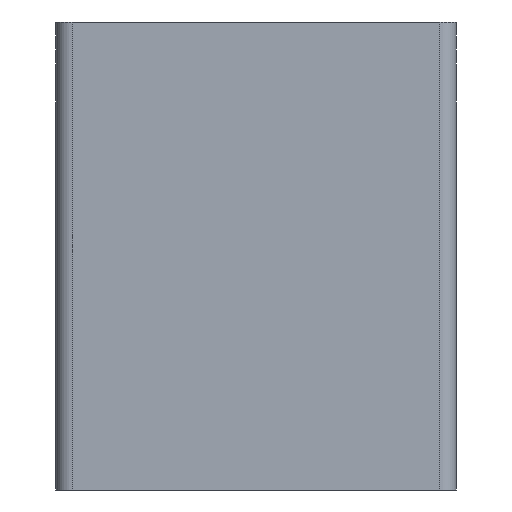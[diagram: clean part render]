
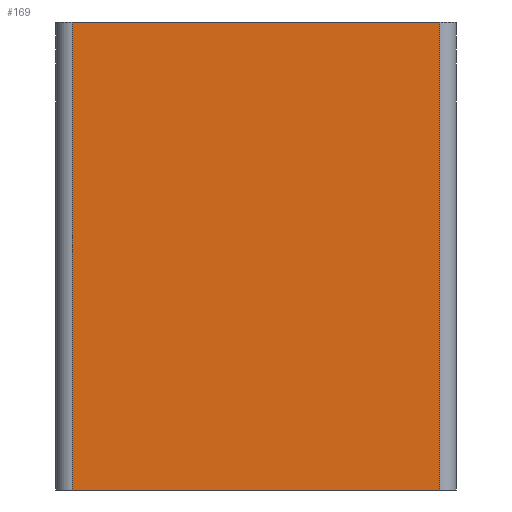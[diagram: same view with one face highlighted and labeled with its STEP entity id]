
A CAD part, left-side view. The second image highlights one B-rep face of the part: STEP entity #169.
In plain terms, the highlighted planar face has unit normal (-1, 0, 0).
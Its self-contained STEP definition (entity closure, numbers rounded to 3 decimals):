
#1 = VECTOR ( 'NONE', #268, 1000. ) ;
#19 = CARTESIAN_POINT ( 'NONE',  ( -9.5, 7.5, 0. ) ) ;
#47 = LINE ( 'NONE', #329, #1 ) ;
#85 = LINE ( 'NONE', #19, #238 ) ;
#104 = CARTESIAN_POINT ( 'NONE',  ( -9.5, -4.4, 14.5 ) ) ;
#108 = EDGE_CURVE ( 'NONE', #575, #505, #220, .T. ) ;
#144 = DIRECTION ( 'NONE',  ( 0., 0., -1. ) ) ;
#162 = DIRECTION ( 'NONE',  ( 1., 0., 0. ) ) ;
#169 = ADVANCED_FACE ( 'NONE', ( #685 ), #588, .F. ) ;
#205 = ORIENTED_EDGE ( 'NONE', *, *, #421, .F. ) ;
#210 = VECTOR ( 'NONE', #234, 1000. ) ;
#212 = DIRECTION ( 'NONE',  ( 0., 0., -1. ) ) ;
#220 = LINE ( 'NONE', #527, #735 ) ;
#234 = DIRECTION ( 'NONE',  ( 0., -1., 0. ) ) ;
#238 = VECTOR ( 'NONE', #144, 1000. ) ;
#256 = EDGE_CURVE ( 'NONE', #736, #575, #634, .T. ) ;
#268 = DIRECTION ( 'NONE',  ( 0., -1., 0. ) ) ;
#311 = VERTEX_POINT ( 'NONE', #386 ) ;
#329 = CARTESIAN_POINT ( 'NONE',  ( -9.5, -4.4, 14.5 ) ) ;
#386 = CARTESIAN_POINT ( 'NONE',  ( -9.5, 7.5, 14.5 ) ) ;
#395 = AXIS2_PLACEMENT_3D ( 'NONE', #104, #162, #212 ) ;
#417 = ORIENTED_EDGE ( 'NONE', *, *, #256, .T. ) ;
#421 = EDGE_CURVE ( 'NONE', #311, #505, #47, .T. ) ;
#449 = EDGE_LOOP ( 'NONE', ( #205, #637, #417, #541 ) ) ;
#461 = DIRECTION ( 'NONE',  ( 0., 0., 1. ) ) ;
#496 = CARTESIAN_POINT ( 'NONE',  ( -9.5, -3.9, 14.5 ) ) ;
#505 = VERTEX_POINT ( 'NONE', #496 ) ;
#527 = CARTESIAN_POINT ( 'NONE',  ( -9.5, -3.9, 14.5 ) ) ;
#541 = ORIENTED_EDGE ( 'NONE', *, *, #108, .T. ) ;
#575 = VERTEX_POINT ( 'NONE', #768 ) ;
#588 = PLANE ( 'NONE',  #395 ) ;
#634 = LINE ( 'NONE', #770, #210 ) ;
#637 = ORIENTED_EDGE ( 'NONE', *, *, #709, .T. ) ;
#679 = CARTESIAN_POINT ( 'NONE',  ( -9.5, 7.5, 0. ) ) ;
#685 = FACE_OUTER_BOUND ( 'NONE', #449, .T. ) ;
#709 = EDGE_CURVE ( 'NONE', #311, #736, #85, .T. ) ;
#735 = VECTOR ( 'NONE', #461, 1000. ) ;
#736 = VERTEX_POINT ( 'NONE', #679 ) ;
#768 = CARTESIAN_POINT ( 'NONE',  ( -9.5, -3.9, 0. ) ) ;
#770 = CARTESIAN_POINT ( 'NONE',  ( -9.5, -4.4, 0. ) ) ;
